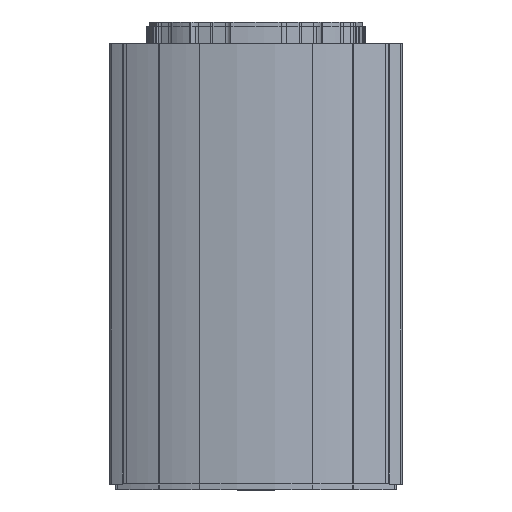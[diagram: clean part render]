
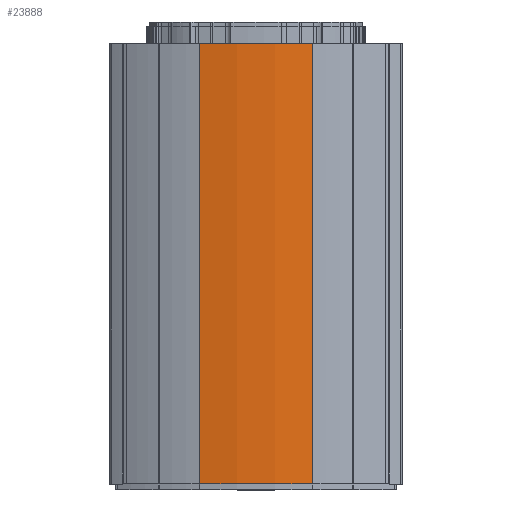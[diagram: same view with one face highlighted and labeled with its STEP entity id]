
A CAD part, top view. The second image highlights one B-rep face of the part: STEP entity #23888.
In plain terms, the highlighted cylindrical face has radius 185.6 mm (diameter 371.2 mm), a partial arc.
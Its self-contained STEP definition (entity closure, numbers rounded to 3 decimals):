
#1492 = CARTESIAN_POINT ( 'NONE',  ( 37.933, 38.434, 0. ) ) ;
#1502 = CARTESIAN_POINT ( 'NONE',  ( 37.933, -38.434, 0. ) ) ;
#7930 = CARTESIAN_POINT ( 'NONE',  ( 37.933, -38.434, 301. ) ) ;
#8149 = DIRECTION ( 'NONE',  ( 1., 0., 0. ) ) ;
#8150 = DIRECTION ( 'NONE',  ( 0., 0., 1. ) ) ;
#8151 = CARTESIAN_POINT ( 'NONE',  ( -143.644, 0., 301. ) ) ;
#8152 = AXIS2_PLACEMENT_3D ( 'NONE', #8151, #8150, #8149 ) ;
#8153 = CIRCLE ( 'NONE', #8152, 185.6 ) ;
#8163 = CARTESIAN_POINT ( 'NONE',  ( 37.933, 38.434, 301. ) ) ;
#23874 = ORIENTED_EDGE ( 'NONE', *, *, #23912, .T. ) ;
#23888 = ADVANCED_FACE ( 'NONE', ( #25374 ), #25332, .T. ) ;
#23889 = EDGE_LOOP ( 'NONE', ( #23962, #23964, #23956, #23874 ) ) ;
#23912 = EDGE_CURVE ( 'NONE', #30432, #26194, #25532, .T. ) ;
#23922 = EDGE_CURVE ( 'NONE', #30538, #26192, #25566, .T. ) ;
#23956 = ORIENTED_EDGE ( 'NONE', *, *, #30544, .F. ) ;
#23962 = ORIENTED_EDGE ( 'NONE', *, *, #26065, .T. ) ;
#23964 = ORIENTED_EDGE ( 'NONE', *, *, #23922, .F. ) ;
#24883 = DIRECTION ( 'NONE',  ( 0., 0., -1. ) ) ;
#25036 = DIRECTION ( 'NONE',  ( -1., 0., 0. ) ) ;
#25331 = CARTESIAN_POINT ( 'NONE',  ( -143.644, 0., 301. ) ) ;
#25332 = CYLINDRICAL_SURFACE ( 'NONE', #25333, 185.6 ) ;
#25333 = AXIS2_PLACEMENT_3D ( 'NONE', #25331, #24883, #25036 ) ;
#25374 = FACE_OUTER_BOUND ( 'NONE', #23889, .T. ) ;
#25532 = LINE ( 'NONE', #25707, #25642 ) ;
#25563 = DIRECTION ( 'NONE',  ( 0., 0., -1. ) ) ;
#25564 = VECTOR ( 'NONE', #25563, 1000. ) ;
#25565 = CARTESIAN_POINT ( 'NONE',  ( 37.933, 38.434, 301. ) ) ;
#25566 = LINE ( 'NONE', #25565, #25564 ) ;
#25640 = DIRECTION ( 'NONE',  ( 0., 0., -1. ) ) ;
#25642 = VECTOR ( 'NONE', #25640, 1000. ) ;
#25707 = CARTESIAN_POINT ( 'NONE',  ( 37.933, -38.434, 301. ) ) ;
#26065 = EDGE_CURVE ( 'NONE', #26194, #26192, #29657, .T. ) ;
#26192 = VERTEX_POINT ( 'NONE', #1492 ) ;
#26194 = VERTEX_POINT ( 'NONE', #1502 ) ;
#29622 = DIRECTION ( 'NONE',  ( 1., 0., 0. ) ) ;
#29654 = DIRECTION ( 'NONE',  ( 0., 0., 1. ) ) ;
#29655 = CARTESIAN_POINT ( 'NONE',  ( -143.644, 0., 0. ) ) ;
#29656 = AXIS2_PLACEMENT_3D ( 'NONE', #29655, #29654, #29622 ) ;
#29657 = CIRCLE ( 'NONE', #29656, 185.6 ) ;
#30432 = VERTEX_POINT ( 'NONE', #7930 ) ;
#30538 = VERTEX_POINT ( 'NONE', #8163 ) ;
#30544 = EDGE_CURVE ( 'NONE', #30432, #30538, #8153, .T. ) ;
